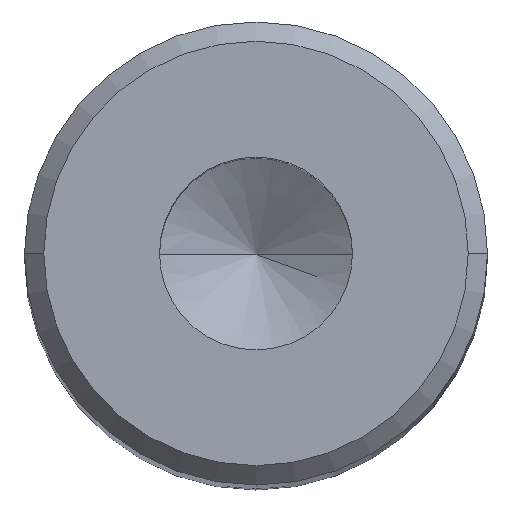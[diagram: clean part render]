
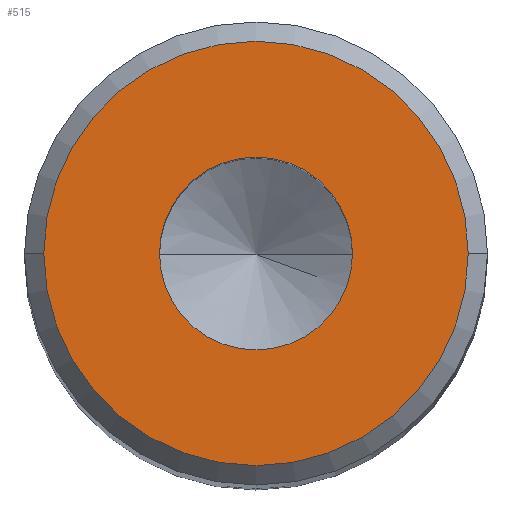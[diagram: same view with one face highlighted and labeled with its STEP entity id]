
A CAD part, top view. The second image highlights one B-rep face of the part: STEP entity #515.
In plain terms, the highlighted planar face has unit normal (0, 0, 1).
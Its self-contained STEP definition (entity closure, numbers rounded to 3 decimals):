
#1 = ORIENTED_EDGE ( 'NONE', *, *, #548, .F. ) ;
#27 = AXIS2_PLACEMENT_3D ( 'NONE', #404, #590, #123 ) ;
#41 = AXIS2_PLACEMENT_3D ( 'NONE', #534, #300, #578 ) ;
#104 = CIRCLE ( 'NONE', #563, 5.5 ) ;
#117 = CARTESIAN_POINT ( 'NONE',  ( 0., 0., 75. ) ) ;
#120 = FACE_OUTER_BOUND ( 'NONE', #577, .T. ) ;
#123 = DIRECTION ( 'NONE',  ( 1., 0., 0. ) ) ;
#135 = CARTESIAN_POINT ( 'NONE',  ( 2.5, 0., 75. ) ) ;
#164 = AXIS2_PLACEMENT_3D ( 'NONE', #117, #215, #258 ) ;
#168 = ORIENTED_EDGE ( 'NONE', *, *, #287, .T. ) ;
#192 = CARTESIAN_POINT ( 'NONE',  ( -5.5, 0., 75. ) ) ;
#212 = CARTESIAN_POINT ( 'NONE',  ( 0., 0., 75. ) ) ;
#215 = DIRECTION ( 'NONE',  ( 0., 0., 1. ) ) ;
#216 = PLANE ( 'NONE',  #27 ) ;
#222 = VERTEX_POINT ( 'NONE', #192 ) ;
#237 = DIRECTION ( 'NONE',  ( 1., 0., 0. ) ) ;
#244 = AXIS2_PLACEMENT_3D ( 'NONE', #212, #306, #539 ) ;
#258 = DIRECTION ( 'NONE',  ( 1., 0., 0. ) ) ;
#266 = VERTEX_POINT ( 'NONE', #135 ) ;
#280 = FACE_BOUND ( 'NONE', #296, .T. ) ;
#287 = EDGE_CURVE ( 'NONE', #222, #543, #104, .T. ) ;
#293 = CARTESIAN_POINT ( 'NONE',  ( 0., 0., 75. ) ) ;
#296 = EDGE_LOOP ( 'NONE', ( #1, #567 ) ) ;
#300 = DIRECTION ( 'NONE',  ( 0., 0., 1. ) ) ;
#306 = DIRECTION ( 'NONE',  ( 0., 0., 1. ) ) ;
#324 = CIRCLE ( 'NONE', #164, 5.5 ) ;
#332 = DIRECTION ( 'NONE',  ( 0., 0., 1. ) ) ;
#373 = VERTEX_POINT ( 'NONE', #385 ) ;
#385 = CARTESIAN_POINT ( 'NONE',  ( -2.5, 0., 75. ) ) ;
#394 = CIRCLE ( 'NONE', #244, 2.5 ) ;
#398 = ORIENTED_EDGE ( 'NONE', *, *, #587, .T. ) ;
#404 = CARTESIAN_POINT ( 'NONE',  ( 0., 0., 75. ) ) ;
#443 = EDGE_CURVE ( 'NONE', #373, #266, #478, .T. ) ;
#478 = CIRCLE ( 'NONE', #41, 2.5 ) ;
#515 = ADVANCED_FACE ( 'NONE', ( #280, #120 ), #216, .T. ) ;
#534 = CARTESIAN_POINT ( 'NONE',  ( 0., 0., 75. ) ) ;
#539 = DIRECTION ( 'NONE',  ( 1., 0., 0. ) ) ;
#543 = VERTEX_POINT ( 'NONE', #547 ) ;
#547 = CARTESIAN_POINT ( 'NONE',  ( 5.5, 0., 75. ) ) ;
#548 = EDGE_CURVE ( 'NONE', #266, #373, #394, .T. ) ;
#563 = AXIS2_PLACEMENT_3D ( 'NONE', #293, #332, #237 ) ;
#567 = ORIENTED_EDGE ( 'NONE', *, *, #443, .F. ) ;
#577 = EDGE_LOOP ( 'NONE', ( #168, #398 ) ) ;
#578 = DIRECTION ( 'NONE',  ( 1., 0., 0. ) ) ;
#587 = EDGE_CURVE ( 'NONE', #543, #222, #324, .T. ) ;
#590 = DIRECTION ( 'NONE',  ( 0., 0., 1. ) ) ;
